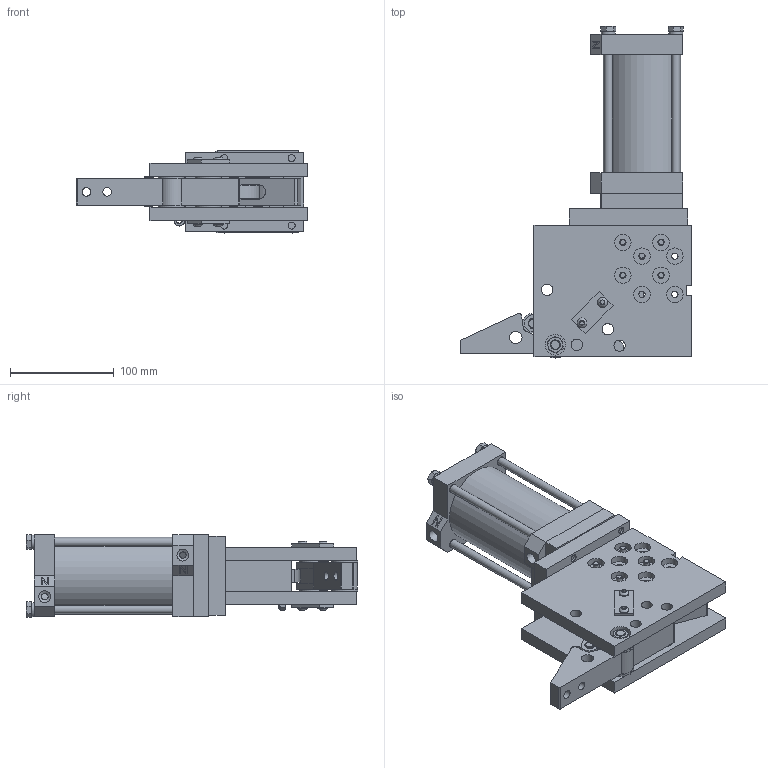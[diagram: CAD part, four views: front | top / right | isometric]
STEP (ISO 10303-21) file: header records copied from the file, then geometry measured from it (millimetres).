
FILE_DESCRIPTION(/* description */ ('SIDE PLATE-RH'),/* implementation_level */ '2;1');
FILE_NAME(/* name */ 'C:\Users\rcarver.WELKER\Desktop\CMX08H04A00.stp',/* time_stamp */ '2016-05-03T14:00:44-04:00',/* author */ ('rcarver'),/* organization */ (''),/* preprocessor_version */ 'ST-DEVELOPER v15.2',/* originating_system */ 'Autodesk Inventor 2014',/* authorisation */ '');
FILE_SCHEMA (('CONFIG_CONTROL_DESIGN'));
Products named in the file (42): CMXE01-RH; CMXE01-LH; CMXE03LT; CMXE05; CMXE06; CMXE07; CMXE19; 0.500X1.500XHH-.250; 0.375-16 HEXJAMNUT; CJ08E10-4; 1 OD X .500 ID X .03; M5X0.8-12 BHCS; C-31ST-PA; CMXE04; NUT; NYLON; 94645A205; 0.438-20X1.750 FLATPOINT; M8X1.25-20 SHCS; CMXE22; CMXE13; CMXE15-05; CMXE17; WCW-2169E01-50; NL8; MC0750X1000-125N; TSR-075BN70; CMXE02; DB4E16; UBS40E01N; UBS40E08; S01303E04; MOR-2.0X016.0bn70; TSP-332BN70; MA1500x2.75DIA; 0.625ID-SAE; 0.625-18 HEXNUT; UBS40E02-50; UBS40E03N; MOR-3.0X064.0bn70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
Bounding box: 223.77 x 320.15 x 79.37 mm (x, y, z)
Volume: 1382686.2 mm3; surface area: 457036.7 mm2
Topology: 72 solids, 72 shells, 1075 faces, 2314 edges, 1504 vertices
Faces by surface type: plane 517, cylinder 376, cone 160, torus 16, bspline 6
Full cylindrical faces by diameter (mm): 4.134 x4, 5 x4, 5.076 x1, 5.188 x4, 5.2 x4, 6 x14, 6.045 x16, 6.401 x2, 6.538 x1, 6.647 x16, 6.782 x4, 7.01 x6, 7.798 x1, 7.925 x9, 7.938 x4, 8 x19, 8.026 x20, 8.376 x2, 8.5 x4, 8.7 x4, 8.731 x8, 9 x4, 9.5 x4, 9.525 x2, 9.728 x3, 10.917 x8, 11.112 x1, 11.43 x4, 11.445 x2, 12 x1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
Entity records: 21443 total; most frequent: CARTESIAN_POINT 4478, DIRECTION 3574, ORIENTED_EDGE 2626, AXIS2_PLACEMENT_3D 1535, EDGE_LOOP 1328, EDGE_CURVE 1313, VERTEX_POINT 1017, ADVANCED_FACE 754
